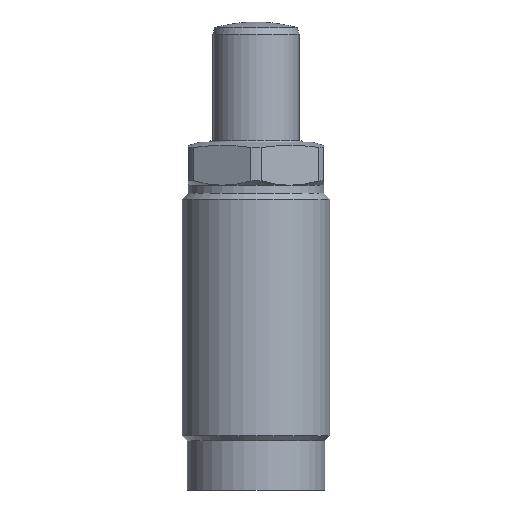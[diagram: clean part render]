
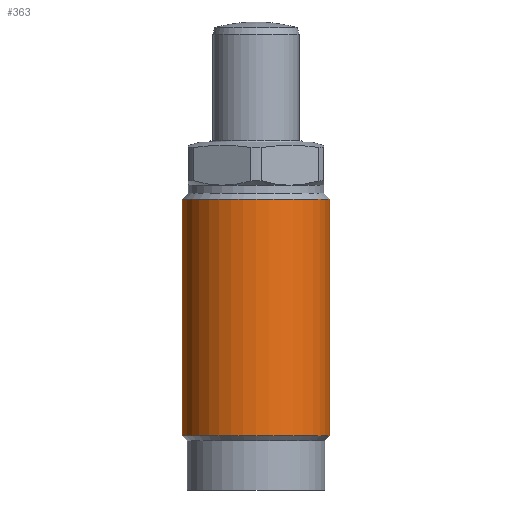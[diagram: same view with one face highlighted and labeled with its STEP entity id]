
A CAD part, front view. The second image highlights one B-rep face of the part: STEP entity #363.
In plain terms, the highlighted cylindrical face has radius 12 mm (diameter 24 mm), a partial arc.
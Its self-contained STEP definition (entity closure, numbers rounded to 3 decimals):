
#26 = EDGE_CURVE ( 'NONE', #1774, #1772, #657, .T. ) ;
#27 = EDGE_CURVE ( 'NONE', #1775, #1773, #659, .T. ) ;
#44 = CARTESIAN_POINT ( 'NONE',  ( 0., 0., -47.65 ) ) ;
#45 = DIRECTION ( 'NONE',  ( 0., 0., 1. ) ) ;
#46 = DIRECTION ( 'NONE',  ( 1., 0., 0. ) ) ;
#47 = CARTESIAN_POINT ( 'NONE',  ( 0., 0., -9.3 ) ) ;
#48 = DIRECTION ( 'NONE',  ( 0., 0., 1. ) ) ;
#49 = DIRECTION ( 'NONE',  ( 1., 0., 0. ) ) ;
#363 = ADVANCED_FACE ( 'NONE', ( #1365 ), #1368, .T. ) ;
#534 = CARTESIAN_POINT ( 'NONE',  ( -12., 0., 4.2 ) ) ;
#540 = LINE ( 'NONE', #534, #1150 ) ;
#544 = DIRECTION ( 'NONE',  ( 0., 0., 1. ) ) ;
#545 = LINE ( 'NONE', #546, #1156 ) ;
#546 = CARTESIAN_POINT ( 'NONE',  ( 12., 0., 4.2 ) ) ;
#547 = DIRECTION ( 'NONE',  ( 0., 0., 1. ) ) ;
#610 = CARTESIAN_POINT ( 'NONE',  ( 12., 0., -47.65 ) ) ;
#611 = CARTESIAN_POINT ( 'NONE',  ( 12., 0., -9.3 ) ) ;
#612 = CARTESIAN_POINT ( 'NONE',  ( -12., 0., -47.65 ) ) ;
#613 = CARTESIAN_POINT ( 'NONE',  ( -12., 0., -9.3 ) ) ;
#657 = CIRCLE ( 'NONE', #662, 12. ) ;
#659 = CIRCLE ( 'NONE', #664, 12. ) ;
#662 = AXIS2_PLACEMENT_3D ( 'NONE', #44, #45, #46 ) ;
#664 = AXIS2_PLACEMENT_3D ( 'NONE', #47, #48, #49 ) ;
#740 = AXIS2_PLACEMENT_3D ( 'NONE', #1366, #1362, #1369 ) ;
#1150 = VECTOR ( 'NONE', #544, 1000. ) ;
#1156 = VECTOR ( 'NONE', #547, 1000. ) ;
#1340 = EDGE_CURVE ( 'NONE', #1774, #1775, #540, .T. ) ;
#1341 = EDGE_CURVE ( 'NONE', #1772, #1773, #545, .T. ) ;
#1362 = DIRECTION ( 'NONE',  ( 0., 0., 1. ) ) ;
#1365 = FACE_OUTER_BOUND ( 'NONE', #1740, .T. ) ;
#1366 = CARTESIAN_POINT ( 'NONE',  ( 0., 0., 4.2 ) ) ;
#1368 = CYLINDRICAL_SURFACE ( 'NONE', #740, 12. ) ;
#1369 = DIRECTION ( 'NONE',  ( 1., 0., 0. ) ) ;
#1740 = EDGE_LOOP ( 'NONE', ( #1999, #1998, #1997, #1996 ) ) ;
#1772 = VERTEX_POINT ( 'NONE', #610 ) ;
#1773 = VERTEX_POINT ( 'NONE', #611 ) ;
#1774 = VERTEX_POINT ( 'NONE', #612 ) ;
#1775 = VERTEX_POINT ( 'NONE', #613 ) ;
#1996 = ORIENTED_EDGE ( 'NONE', *, *, #27, .F. ) ;
#1997 = ORIENTED_EDGE ( 'NONE', *, *, #1341, .T. ) ;
#1998 = ORIENTED_EDGE ( 'NONE', *, *, #26, .T. ) ;
#1999 = ORIENTED_EDGE ( 'NONE', *, *, #1340, .F. ) ;
